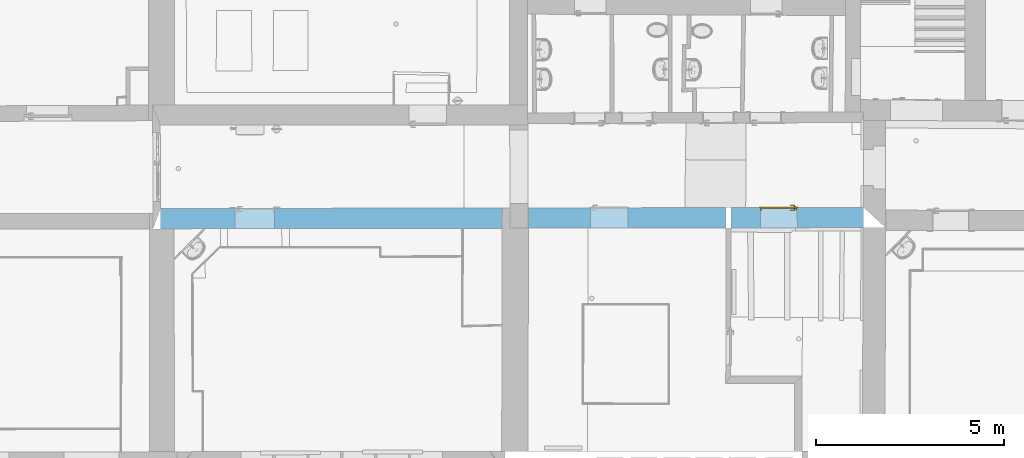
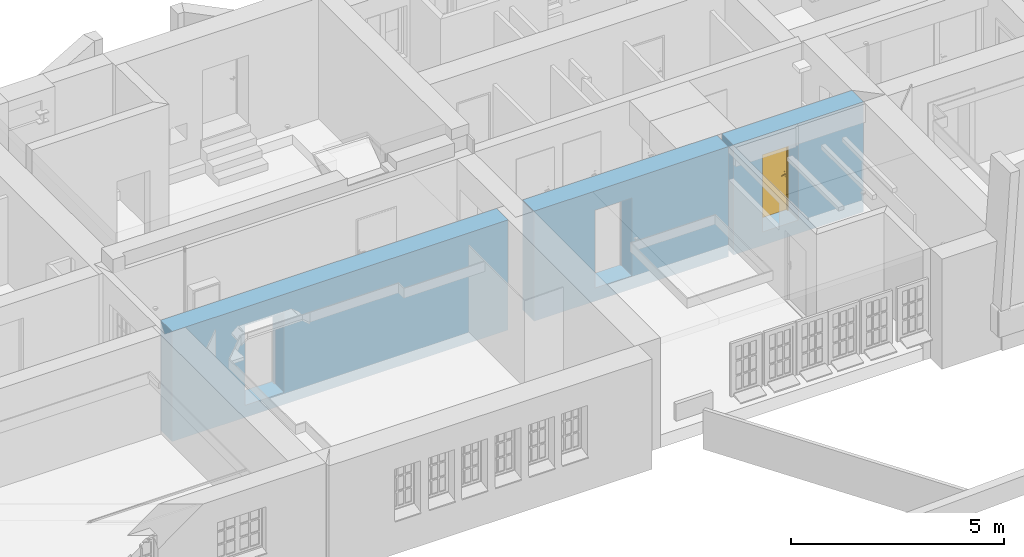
# One storey, part 97 of 196: 1 door, 3 openings, plus 1 element that does not belong to this part.
"""IFC2X3 building model written with IfcOpenShell, lengths in metres."""

from ifc_helpers import new_model, entity, si_unit, converted_unit, derived_unit, money_unit, direction, frame, origin_with_axes, origin_2d_with_axis, place, context, subcontext, project, spatial, polyline, rectangle, outline, extrude, boolean, faceted_brep, material, type_object, element, fill, save


model = new_model("IFC2X3")

# Units and contexts
model_context = context("Model", 3, precision=1e-05, world=origin_with_axes(), true_north=direction((0.0, 1.0)))
body_context = subcontext(model_context, "Body", "Model", "MODEL_VIEW")
ifc_project = project(units=[si_unit("LENGTHUNIT", "METRE"), si_unit("AREAUNIT", "SQUARE_METRE"), si_unit("VOLUMEUNIT", "CUBIC_METRE"), converted_unit("PLANEANGLEUNIT", "DEGREE", entity("IfcPlaneAngleMeasure", 0.0174532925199), si_unit("PLANEANGLEUNIT", "RADIAN"), dimensions=[0, 0, 0, 0, 0, 0, 0]), money_unit("EUR"), converted_unit("TIMEUNIT", "Year", entity("IfcTimeMeasure", 31556926.0), si_unit("TIMEUNIT", "SECOND"), dimensions=[0, 0, 1, 0, 0, 0, 0]), si_unit("MASSUNIT", "GRAM", prefix="KILO"), si_unit("THERMODYNAMICTEMPERATUREUNIT", "DEGREE_CELSIUS"), si_unit("LUMINOUSINTENSITYUNIT", "LUMEN"), si_unit("ENERGYUNIT", "JOULE", prefix="MEGA"), derived_unit("THERMALCONDUCTANCEUNIT", [(si_unit("POWERUNIT", "WATT"), 1), (si_unit("LENGTHUNIT", "METRE"), -1), (si_unit("THERMODYNAMICTEMPERATUREUNIT", "KELVIN"), -1)]), derived_unit("SPECIFICHEATCAPACITYUNIT", [(si_unit("ENERGYUNIT", "JOULE"), 1), (si_unit("MASSUNIT", "GRAM", prefix="KILO"), -1), (si_unit("THERMODYNAMICTEMPERATUREUNIT", "KELVIN"), -1)]), derived_unit("MASSDENSITYUNIT", [(si_unit("MASSUNIT", "GRAM", prefix="KILO"), 1), (si_unit("VOLUMEUNIT", "CUBIC_METRE"), -1)])], contexts=[model_context])

# Site, building, storey
site_placement = place(None, origin_with_axes())
site = spatial("IfcSite", under=ifc_project, at=site_placement, Name="Gelände", CompositionType="ELEMENT")
building_placement = place(site_placement, origin_with_axes())
building = spatial("IfcBuilding", under=site, at=building_placement, Name="Gebäude", CompositionType="ELEMENT")
storey_placement = place(building_placement, frame((0.0, 0.0, -3.0), z_axis=(0.0, 0.0, 1.0), x_axis=(1.0, 0.0, 0.0)))
storey = spatial("IfcBuildingStorey", under=building, at=storey_placement, Name="KELLERGESCHOSS", CompositionType="ELEMENT", Elevation=-3.0)

# Wall, openings, door
ifc_material = material(Name="05_ALLGEMEIN - TRAGENDE BAUTEILE")
wall_type = type_object("IfcWallType", Name="05_ALLGEMEIN - TRAGENDE BAUTEILE 540", PredefinedType="ELEMENTEDWALL")
wall_placement = place(storey_placement, frame((21.9688178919, 16.9699382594, -0.36), z_axis=(0.0, 0.0, 1.0), x_axis=(-0.999998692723, -0.00161695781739, 0.0)))
wall = element("IfcWall", 1, at=wall_placement, inside=storey, type_object=wall_type, material=ifc_material, Name="Wand-036", ObjectType="ELEMENTEDWALL", context=body_context, shape_type="CSG", body=[
    boolean("DIFFERENCE", boolean("DIFFERENCE", boolean("DIFFERENCE", boolean("DIFFERENCE", extrude(outline(polyline([(-0.585878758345, 0.0), (18.9209869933, 0.0), (18.9209869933, 0.54), (-0.585878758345, 0.54), (-0.585878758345, 0.0)])), origin_with_axes(), (0.0, 0.0, 1.0), 3.15), faceted_brep([(18.7195389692, 0.54, 0.0), (18.7195389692, 0.54, 3.15), (18.9209869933, 0.54, 3.15), (18.9209869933, 0.54, 0.0), (18.7209862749, 0.0, 3.15), (18.7209862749, 0.0, 0.0), (18.9209869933, 0.0, 3.15), (18.9209869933, 0.0, 0.0)], [[[0, 1, 2, 3]], [[4, 1, 0, 5]], [[1, 4, 6, 2]], [[6, 7, 3, 2]], [[5, 0, 3, 7]], [[4, 5, 7, 6]]])), faceted_brep([(0.0, 0.0, 0.0), (0.0, 0.0, 3.15), (-0.585878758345, 0.0, 3.15), (-0.585878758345, 0.0, 0.0), (0.000340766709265, 0.0744834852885, 3.15), (0.000340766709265, 0.0744834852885, 0.0), (0.0031865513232, 0.0744756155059, 3.15), (0.0059051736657, 0.540000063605, 3.15), (-0.585878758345, 0.54, 3.15), (-0.585878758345, 0.54, 0.0), (0.00590520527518, 0.54, 0.0), (0.0031865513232, 0.0744756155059, 0.0), (0.0059051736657, 0.540000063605, 2.62)], [[[0, 1, 2, 3]], [[4, 1, 0, 5]], [[6, 7, 8, 2, 1, 4]], [[8, 9, 3, 2]], [[5, 0, 3, 9, 10, 11]], [[6, 4, 5, 11]], [[7, 6, 11, 10, 12]], [[12, 10, 9, 8, 7]]])), faceted_brep([(3.65791219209, 0.0, 0.0), (3.65791219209, 0.0, 3.15), (3.52791129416, 0.0, 3.15), (3.52791129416, 0.0, 0.0), (3.65991925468, 0.54, 3.15), (3.65991925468, 0.54, 0.0), (3.52991835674, 0.54, 3.15), (3.52991835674, 0.54, 0.0)], [[[0, 1, 2, 3]], [[4, 1, 0, 5]], [[1, 4, 6, 2]], [[3, 2, 6, 7]], [[5, 0, 3, 7]], [[4, 5, 7, 6]]])), faceted_brep([(9.61975499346, 0.0, 0.0), (9.61975499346, 0.0, 3.15), (8.91974889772, 0.0, 3.15), (8.91974889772, 0.0, 0.0), (9.62200857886, 0.54, 3.15), (9.62200857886, 0.54, 0.0), (8.92200248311, 0.54, 3.15), (8.92200248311, 0.54, 0.0)], [[[0, 1, 2, 3]], [[4, 1, 0, 5]], [[1, 4, 6, 2]], [[3, 2, 6, 7]], [[5, 0, 3, 7]], [[4, 5, 7, 6]]])),
])
opening_1_placement = place(wall_placement, frame((16.2148036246, 0.0, 0.348037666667), z_axis=(0.0, 0.0, 1.0), x_axis=(1.0, 0.0, 0.0)))
element("IfcOpeningElement", 2, at=opening_1_placement, cuts=wall, Name="Tür-022", context=body_context, shape_type="SweptSolid", body=[
    extrude(rectangle(XDim=1.05454069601, YDim=2.277381, at=origin_2d_with_axis()), frame((0.0, -0.54, 1.1386905), z_axis=(0.0, 1.0, 0.0), x_axis=(-1.0, 0.0, 0.0)), (0.0, 0.0, 1.0), 1.62),
])
opening_2_placement = place(wall_placement, frame((6.77224830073, 0.0, 0.373), z_axis=(0.0, 0.0, 1.0), x_axis=(1.0, 0.0, 0.0)))
element("IfcOpeningElement", 3, at=opening_2_placement, cuts=wall, Name="Tür-022", context=body_context, shape_type="SweptSolid", body=[
    extrude(rectangle(XDim=1.00009255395, YDim=2.2284909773, at=origin_2d_with_axis()), frame((0.0, -0.54, 1.11424548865), z_axis=(0.0, 1.0, 0.0), x_axis=(-1.0, 0.0, 0.0)), (0.0, 0.0, 1.0), 1.62),
])
opening_3_placement = place(wall_placement, frame((2.25172785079, 0.0, 0.382635), z_axis=(0.0, 0.0, 1.0), x_axis=(1.0, 0.0, 0.0)))
opening_3 = element("IfcOpeningElement", 4, at=opening_3_placement, cuts=wall, Name="Tür-022", context=body_context, shape_type="SweptSolid", body=[
    extrude(rectangle(XDim=0.976937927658, YDim=2.214082, at=origin_2d_with_axis()), frame((0.0, -0.54, 1.107041), z_axis=(0.0, -1.0, 0.0), x_axis=(1.0, 0.0, 0.0)), (0.0, 0.0, -1.0), 1.62),
])
door_style = type_object("IfcDoorStyle", Name="Blockrahmentür 1-Fl 25", ConstructionType="NOTDEFINED", OperationType="SINGLE_SWING_LEFT", ParameterTakesPrecedence=False, Sizeable=False)
door_placement = place(opening_3_placement, frame((0.458468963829, 0.0, 0.0), z_axis=(0.0, 0.0, 1.0), x_axis=(-1.0, 0.0, 0.0)))
door = element("IfcDoor", 5, at=door_placement, inside=storey, type_object=door_style, Name="Tür-022", ObjectType="NOTDEFINED", OverallHeight=2.21408, OverallWidth=0.976938, context=body_context, shape_type="Brep", body=[
    faceted_brep([(-0.03, -0.073, 0.0), (-0.03, -0.073, 2.214082), (-0.03, -0.028, 2.214082), (-0.03, -0.028, 0.0), (0.0, -0.073, 0.0), (0.0, -0.073, 2.184082), (0.343368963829, -0.073, 2.184082), (0.458368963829, -0.073, 2.184082), (0.916937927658, -0.073, 2.184082), (0.916937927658, -0.073, 0.0), (0.946937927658, -0.073, 0.0), (0.946937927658, -0.073, 2.214082), (0.946937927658, -0.028, 2.214082), (0.946937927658, -0.028, 0.0), (0.916937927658, -0.028, 0.0), (0.916937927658, -0.028, 2.184082), (0.458368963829, -0.028, 2.184082), (0.343368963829, -0.028, 2.184082), (0.0, -0.028, 2.184082), (0.0, -0.028, 0.0)], [[[0, 1, 2, 3]], [[0, 4, 5, 6, 7, 8, 9, 10, 11, 1]], [[1, 11, 12, 2]], [[3, 2, 12, 13, 14, 15, 16, 17, 18, 19]], [[4, 0, 3, 19]], [[5, 4, 19, 18]], [[6, 5, 18, 17]], [[7, 6, 17, 16]], [[8, 7, 16, 15]], [[9, 8, 15, 14]], [[10, 9, 14, 13]], [[11, 10, 13, 12]]]),
    faceted_brep([(-0.03, -0.028, 0.0), (-0.03, -0.028, 2.214082), (-0.03, 0.012, 2.214082), (-0.03, 0.012, 0.0), (-0.015, -0.028, 0.0), (-0.015, -0.028, 2.199082), (0.358368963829, -0.028, 2.199082), (0.443368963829, -0.028, 2.199082), (0.931937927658, -0.028, 2.199082), (0.931937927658, -0.028, 0.0), (0.946937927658, -0.028, 0.0), (0.946937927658, -0.028, 2.214082), (0.946937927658, 0.012, 2.214082), (0.946937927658, 0.012, 0.0), (0.931937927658, 0.012, 0.0), (0.931937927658, 0.012, 2.199082), (0.443368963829, 0.012, 2.199082), (0.358368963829, 0.012, 2.199082), (-0.015, 0.012, 2.199082), (-0.015, 0.012, 0.0)], [[[0, 1, 2, 3]], [[0, 4, 5, 6, 7, 8, 9, 10, 11, 1]], [[1, 11, 12, 2]], [[3, 2, 12, 13, 14, 15, 16, 17, 18, 19]], [[4, 0, 3, 19]], [[5, 4, 19, 18]], [[6, 5, 18, 17]], [[7, 6, 17, 16]], [[8, 7, 16, 15]], [[9, 8, 15, 14]], [[10, 9, 14, 13]], [[11, 10, 13, 12]]]),
    faceted_brep([(-0.07, 0.0, 0.0), (-0.07, 0.0, 2.254082), (-0.07, 0.012, 2.254082), (-0.07, 0.012, 0.0), (-0.03, 0.0, 0.0), (-0.03, 0.0, 2.214082), (0.946937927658, 0.0, 2.214082), (0.946937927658, 0.0, 0.0), (0.986937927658, 0.0, 0.0), (0.986937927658, 0.0, 2.254082), (0.986937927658, 0.012, 2.254082), (0.986937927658, 0.012, 0.0), (0.946937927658, 0.012, 0.0), (0.946937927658, 0.012, 2.214082), (-0.03, 0.012, 2.214082), (-0.03, 0.012, 0.0)], [[[0, 1, 2, 3]], [[0, 4, 5, 6, 7, 8, 9, 1]], [[1, 9, 10, 2]], [[3, 2, 10, 11, 12, 13, 14, 15]], [[4, 0, 3, 15]], [[5, 4, 15, 14]], [[6, 5, 14, 13]], [[7, 6, 13, 12]], [[8, 7, 12, 11]], [[9, 8, 11, 10]]]),
    faceted_brep([(-0.015, 0.017, 0.0), (-0.015, 0.017, 2.199082), (0.931937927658, 0.017, 2.199082), (0.931937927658, 0.017, 0.0), (-0.015, -0.028, 0.0), (-0.015, -0.028, 2.199082), (0.931937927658, -0.028, 2.199082), (0.931937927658, -0.028, 0.0)], [[[0, 1, 2, 3]], [[0, 4, 5, 1]], [[1, 5, 6, 2]], [[2, 6, 7, 3]], [[3, 7, 4, 0]], [[7, 6, 5, 4]]]),
    faceted_brep([(0.876640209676, -0.068, 1.05647213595), (0.876640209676, -0.048, 1.05647213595), (0.871937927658, -0.048, 1.058), (0.871937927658, -0.068, 1.058), (0.879546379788, -0.068, 1.05247213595), (0.879546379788, -0.048, 1.05247213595), (0.877815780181, -0.046, 1.05809016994), (0.871937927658, -0.046, 1.06), (0.867235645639, -0.048, 1.05647213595), (0.867235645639, -0.068, 1.05647213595), (0.864329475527, -0.068, 1.05247213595), (0.864329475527, -0.068, 1.04752786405), (0.867235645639, -0.068, 1.04352786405), (0.871937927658, -0.068, 1.042), (0.876640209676, -0.068, 1.04352786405), (0.879546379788, -0.068, 1.04752786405), (0.879546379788, -0.048, 1.04752786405), (0.881448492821, -0.046, 1.05309016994), (0.877815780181, -0.038, 1.05809016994), (0.871937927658, -0.038, 1.06), (0.866060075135, -0.046, 1.05809016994), (0.864329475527, -0.048, 1.05247213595), (0.864329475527, -0.048, 1.04752786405), (0.867235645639, -0.048, 1.04352786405), (0.871937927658, -0.048, 1.042), (0.876640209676, -0.048, 1.04352786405), (0.881448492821, -0.046, 1.04690983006), (0.881448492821, -0.038, 1.05309016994), (0.881448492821, -0.038, 1.04690983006), (0.877815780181, -0.038, 1.04190983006), (0.871937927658, -0.038, 1.04), (0.866060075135, -0.038, 1.04190983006), (0.862427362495, -0.038, 1.04690983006), (0.862427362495, -0.038, 1.05309016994), (0.866060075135, -0.038, 1.05809016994), (0.862427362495, -0.046, 1.05309016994), (0.862427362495, -0.046, 1.04690983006), (0.866060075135, -0.046, 1.04190983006), (0.871937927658, -0.046, 1.04), (0.877815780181, -0.046, 1.04190983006)], [[[0, 1, 2, 3]], [[4, 5, 1, 0]], [[1, 6, 7, 2]], [[3, 2, 8, 9]], [[3, 9, 10, 11, 12, 13, 14, 15, 4, 0]], [[15, 16, 5, 4]], [[5, 17, 6, 1]], [[6, 18, 19, 7]], [[2, 7, 20, 8]], [[9, 8, 21, 10]], [[10, 21, 22, 11]], [[11, 22, 23, 12]], [[12, 23, 24, 13]], [[13, 24, 25, 14]], [[14, 25, 16, 15]], [[16, 26, 17, 5]], [[17, 27, 18, 6]], [[19, 18, 27, 28, 29, 30, 31, 32, 33, 34]], [[7, 19, 34, 20]], [[8, 20, 35, 21]], [[21, 35, 36, 22]], [[22, 36, 37, 23]], [[23, 37, 38, 24]], [[24, 38, 39, 25]], [[25, 39, 26, 16]], [[26, 28, 27, 17]], [[39, 29, 28, 26]], [[38, 30, 29, 39]], [[37, 31, 30, 38]], [[36, 32, 31, 37]], [[35, 33, 32, 36]], [[20, 34, 33, 35]]]),
    faceted_brep([(0.859749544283, -0.038, 1.11759695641), (0.855137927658, -0.038, 1.11), (0.849437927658, -0.038, 1.11), (0.849437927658, -0.038, 0.89), (0.855137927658, -0.038, 0.89), (0.859749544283, -0.038, 0.882403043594), (0.867494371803, -0.038, 0.878044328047), (0.876381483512, -0.038, 0.878044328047), (0.884126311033, -0.038, 0.882403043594), (0.888737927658, -0.038, 0.89), (0.894437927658, -0.038, 0.89), (0.894437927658, -0.038, 1.11), (0.888737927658, -0.038, 1.11), (0.884126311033, -0.038, 1.11759695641), (0.876381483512, -0.038, 1.12195567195), (0.867494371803, -0.038, 1.12195567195), (0.871937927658, -0.038, 0.967425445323), (0.877313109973, -0.038, 0.965143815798), (0.879405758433, -0.038, 0.959692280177), (0.876937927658, -0.038, 0.9544), (0.876937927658, -0.038, 0.9375), (0.875473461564, -0.038, 0.933964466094), (0.871937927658, -0.038, 0.9325), (0.868402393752, -0.038, 0.933964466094), (0.866937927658, -0.038, 0.9375), (0.866937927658, -0.038, 0.9544), (0.864470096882, -0.038, 0.959692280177), (0.866562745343, -0.038, 0.965143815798), (0.859749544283, -0.028, 1.11759695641), (0.855137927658, -0.028, 1.11), (0.849437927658, -0.028, 1.11), (0.849437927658, -0.028, 0.89), (0.855137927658, -0.028, 0.89), (0.859749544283, -0.028, 0.882403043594), (0.867494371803, -0.028, 0.878044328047), (0.876381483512, -0.028, 0.878044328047), (0.884126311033, -0.028, 0.882403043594), (0.888737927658, -0.028, 0.89), (0.894437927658, -0.028, 0.89), (0.894437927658, -0.028, 1.11), (0.888737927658, -0.028, 1.11), (0.884126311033, -0.028, 1.11759695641), (0.876381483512, -0.028, 1.12195567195), (0.867494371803, -0.028, 1.12195567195), (0.871937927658, -0.028, 0.967425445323), (0.877313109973, -0.028, 0.965143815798), (0.879405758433, -0.028, 0.959692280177), (0.876937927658, -0.028, 0.9544), (0.876937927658, -0.028, 0.9375), (0.875473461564, -0.028, 0.933964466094), (0.871937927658, -0.028, 0.9325), (0.868402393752, -0.028, 0.933964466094), (0.866937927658, -0.028, 0.9375), (0.866937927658, -0.028, 0.9544), (0.864470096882, -0.028, 0.959692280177), (0.866562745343, -0.028, 0.965143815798)], [[[0, 1, 2, 3, 4, 5, 6, 7, 8, 9, 10, 11, 12, 13, 14, 15], [16, 17, 18, 19, 20, 21, 22, 23, 24, 25, 26, 27]], [[0, 28, 29, 1]], [[1, 29, 30, 2]], [[2, 30, 31, 3]], [[3, 31, 32, 4]], [[4, 32, 33, 5]], [[5, 33, 34, 6]], [[6, 34, 35, 7]], [[7, 35, 36, 8]], [[8, 36, 37, 9]], [[9, 37, 38, 10]], [[10, 38, 39, 11]], [[11, 39, 40, 12]], [[12, 40, 41, 13]], [[13, 41, 42, 14]], [[14, 42, 43, 15]], [[15, 43, 28, 0]], [[16, 44, 45, 17]], [[17, 45, 46, 18]], [[18, 46, 47, 19]], [[47, 48, 20, 19]], [[21, 20, 48, 49]], [[22, 21, 49, 50]], [[23, 22, 50, 51]], [[24, 23, 51, 52]], [[25, 24, 52, 53]], [[25, 53, 54, 26]], [[26, 54, 55, 27]], [[27, 55, 44, 16]], [[32, 31, 30, 29, 28, 43, 42, 41, 40, 39, 38, 37, 36, 35, 34, 33], [46, 45, 44, 55, 54, 53, 52, 51, 50, 49, 48, 47]]]),
    faceted_brep([(0.757684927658, -0.068, 1.057158), (0.75768343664, -0.068, 1.05719388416), (0.75768343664, -0.083, 1.05719388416), (0.757684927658, -0.083, 1.057158), (0.784712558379, -0.068, 1.06432652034), (0.812540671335, -0.068, 1.06706086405), (0.840446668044, -0.068, 1.06529002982), (0.867705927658, -0.068, 1.05906), (0.874108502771, -0.068, 1.05976125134), (0.879610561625, -0.068, 1.05641280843), (0.881929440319, -0.068, 1.05040385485), (0.880103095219, -0.068, 1.04422735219), (0.874889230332, -0.068, 1.04044577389), (0.868450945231, -0.068, 1.04062800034), (0.863459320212, -0.068, 1.04469843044), (0.863479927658, -0.068, 1.044666), (0.838191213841, -0.068, 1.05019878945), (0.812348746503, -0.068, 1.05171460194), (0.78658661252, -0.068, 1.04917624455), (0.761536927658, -0.068, 1.042646), (0.755993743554, -0.068, 1.04356849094), (0.752632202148, -0.068, 1.04807159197), (0.753323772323, -0.068, 1.05364829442), (0.753323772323, -0.083, 1.05364829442), (0.752632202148, -0.083, 1.04807159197), (0.755993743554, -0.083, 1.04356849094), (0.761536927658, -0.083, 1.042646), (0.78658661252, -0.083, 1.04917624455), (0.812348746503, -0.083, 1.05171460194), (0.838191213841, -0.083, 1.05019878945), (0.863479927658, -0.083, 1.044666), (0.863459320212, -0.083, 1.04469843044), (0.868450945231, -0.083, 1.04062800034), (0.874889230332, -0.083, 1.04044577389), (0.880103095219, -0.083, 1.04422735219), (0.881929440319, -0.083, 1.05040385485), (0.879610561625, -0.083, 1.05641280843), (0.874108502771, -0.083, 1.05976125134), (0.867705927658, -0.083, 1.05906), (0.840446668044, -0.083, 1.06529002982), (0.812540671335, -0.083, 1.06706086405), (0.784712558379, -0.083, 1.06432652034)], [[[0, 1, 2, 3]], [[0, 4, 5, 6, 7, 8, 9, 10, 11, 12, 13, 14, 15, 16, 17, 18, 19, 20, 21, 22, 1]], [[1, 22, 23, 2]], [[3, 2, 23, 24, 25, 26, 27, 28, 29, 30, 31, 32, 33, 34, 35, 36, 37, 38, 39, 40, 41]], [[4, 0, 3, 41]], [[5, 4, 41, 40]], [[6, 5, 40, 39]], [[7, 6, 39, 38]], [[8, 7, 38, 37]], [[9, 8, 37, 36]], [[10, 9, 36, 35]], [[11, 10, 35, 34]], [[12, 11, 34, 33]], [[13, 12, 33, 32]], [[14, 13, 32, 31]], [[15, 14, 31, 30]], [[16, 15, 30, 29]], [[17, 16, 29, 28]], [[18, 17, 28, 27]], [[19, 18, 27, 26]], [[20, 19, 26, 25]], [[21, 20, 25, 24]], [[22, 21, 24, 23]]]),
    faceted_brep([(0.876640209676, 0.057, 1.05647213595), (0.871937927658, 0.057, 1.058), (0.871937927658, 0.037, 1.058), (0.876640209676, 0.037, 1.05647213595), (0.879546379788, 0.057, 1.05247213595), (0.879546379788, 0.057, 1.04752786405), (0.876640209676, 0.057, 1.04352786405), (0.871937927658, 0.057, 1.042), (0.867235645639, 0.057, 1.04352786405), (0.864329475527, 0.057, 1.04752786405), (0.864329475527, 0.057, 1.05247213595), (0.867235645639, 0.057, 1.05647213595), (0.867235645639, 0.037, 1.05647213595), (0.871937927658, 0.035, 1.06), (0.877815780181, 0.035, 1.05809016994), (0.879546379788, 0.037, 1.05247213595), (0.879546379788, 0.037, 1.04752786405), (0.876640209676, 0.037, 1.04352786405), (0.871937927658, 0.037, 1.042), (0.867235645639, 0.037, 1.04352786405), (0.864329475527, 0.037, 1.04752786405), (0.864329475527, 0.037, 1.05247213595), (0.866060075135, 0.035, 1.05809016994), (0.871937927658, 0.027, 1.06), (0.877815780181, 0.027, 1.05809016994), (0.881448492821, 0.035, 1.05309016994), (0.881448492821, 0.035, 1.04690983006), (0.877815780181, 0.035, 1.04190983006), (0.871937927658, 0.035, 1.04), (0.866060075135, 0.035, 1.04190983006), (0.862427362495, 0.035, 1.04690983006), (0.862427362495, 0.035, 1.05309016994), (0.866060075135, 0.027, 1.05809016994), (0.862427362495, 0.027, 1.05309016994), (0.862427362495, 0.027, 1.04690983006), (0.866060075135, 0.027, 1.04190983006), (0.871937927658, 0.027, 1.04), (0.877815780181, 0.027, 1.04190983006), (0.881448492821, 0.027, 1.04690983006), (0.881448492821, 0.027, 1.05309016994)], [[[0, 1, 2, 3]], [[1, 0, 4, 5, 6, 7, 8, 9, 10, 11]], [[1, 11, 12, 2]], [[3, 2, 13, 14]], [[4, 0, 3, 15]], [[5, 4, 15, 16]], [[6, 5, 16, 17]], [[7, 6, 17, 18]], [[8, 7, 18, 19]], [[9, 8, 19, 20]], [[10, 9, 20, 21]], [[11, 10, 21, 12]], [[2, 12, 22, 13]], [[14, 13, 23, 24]], [[15, 3, 14, 25]], [[16, 15, 25, 26]], [[17, 16, 26, 27]], [[18, 17, 27, 28]], [[19, 18, 28, 29]], [[20, 19, 29, 30]], [[21, 20, 30, 31]], [[12, 21, 31, 22]], [[13, 22, 32, 23]], [[23, 32, 33, 34, 35, 36, 37, 38, 39, 24]], [[25, 14, 24, 39]], [[26, 25, 39, 38]], [[27, 26, 38, 37]], [[28, 27, 37, 36]], [[29, 28, 36, 35]], [[30, 29, 35, 34]], [[31, 30, 34, 33]], [[22, 31, 33, 32]]]),
    faceted_brep([(0.859749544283, 0.017, 1.11759695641), (0.855137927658, 0.017, 1.11), (0.849437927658, 0.017, 1.11), (0.849437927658, 0.017, 0.89), (0.855137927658, 0.017, 0.89), (0.859749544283, 0.017, 0.882403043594), (0.867494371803, 0.017, 0.878044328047), (0.876381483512, 0.017, 0.878044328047), (0.884126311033, 0.017, 0.882403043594), (0.888737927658, 0.017, 0.89), (0.894437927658, 0.017, 0.89), (0.894437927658, 0.017, 1.11), (0.888737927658, 0.017, 1.11), (0.884126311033, 0.017, 1.11759695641), (0.876381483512, 0.017, 1.12195567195), (0.867494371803, 0.017, 1.12195567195), (0.871937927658, 0.017, 0.967425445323), (0.877313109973, 0.017, 0.965143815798), (0.879405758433, 0.017, 0.959692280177), (0.876937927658, 0.017, 0.9544), (0.876937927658, 0.017, 0.9375), (0.875473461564, 0.017, 0.933964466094), (0.871937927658, 0.017, 0.9325), (0.868402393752, 0.017, 0.933964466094), (0.866937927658, 0.017, 0.9375), (0.866937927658, 0.017, 0.9544), (0.864470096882, 0.017, 0.959692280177), (0.866562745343, 0.017, 0.965143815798), (0.859749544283, 0.027, 1.11759695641), (0.855137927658, 0.027, 1.11), (0.849437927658, 0.027, 1.11), (0.849437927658, 0.027, 0.89), (0.855137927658, 0.027, 0.89), (0.859749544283, 0.027, 0.882403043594), (0.867494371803, 0.027, 0.878044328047), (0.876381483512, 0.027, 0.878044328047), (0.884126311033, 0.027, 0.882403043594), (0.888737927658, 0.027, 0.89), (0.894437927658, 0.027, 0.89), (0.894437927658, 0.027, 1.11), (0.888737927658, 0.027, 1.11), (0.884126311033, 0.027, 1.11759695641), (0.876381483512, 0.027, 1.12195567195), (0.867494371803, 0.027, 1.12195567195), (0.871937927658, 0.027, 0.967425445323), (0.877313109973, 0.027, 0.965143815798), (0.879405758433, 0.027, 0.959692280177), (0.876937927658, 0.027, 0.9544), (0.876937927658, 0.027, 0.9375), (0.875473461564, 0.027, 0.933964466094), (0.871937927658, 0.027, 0.9325), (0.868402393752, 0.027, 0.933964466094), (0.866937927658, 0.027, 0.9375), (0.866937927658, 0.027, 0.9544), (0.864470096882, 0.027, 0.959692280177), (0.866562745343, 0.027, 0.965143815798)], [[[0, 1, 2, 3, 4, 5, 6, 7, 8, 9, 10, 11, 12, 13, 14, 15], [16, 17, 18, 19, 20, 21, 22, 23, 24, 25, 26, 27]], [[28, 29, 1, 0]], [[29, 30, 2, 1]], [[30, 31, 3, 2]], [[31, 32, 4, 3]], [[32, 33, 5, 4]], [[33, 34, 6, 5]], [[34, 35, 7, 6]], [[35, 36, 8, 7]], [[36, 37, 9, 8]], [[37, 38, 10, 9]], [[38, 39, 11, 10]], [[39, 40, 12, 11]], [[40, 41, 13, 12]], [[41, 42, 14, 13]], [[42, 43, 15, 14]], [[43, 28, 0, 15]], [[16, 44, 45, 17]], [[17, 45, 46, 18]], [[18, 46, 47, 19]], [[47, 48, 20, 19]], [[21, 20, 48, 49]], [[22, 21, 49, 50]], [[23, 22, 50, 51]], [[24, 23, 51, 52]], [[25, 24, 52, 53]], [[25, 53, 54, 26]], [[26, 54, 55, 27]], [[27, 55, 44, 16]], [[32, 31, 30, 29, 28, 43, 42, 41, 40, 39, 38, 37, 36, 35, 34, 33], [46, 45, 44, 55, 54, 53, 52, 51, 50, 49, 48, 47]]]),
    faceted_brep([(0.757684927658, 0.057, 1.057158), (0.757684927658, 0.072, 1.057158), (0.75768343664, 0.072, 1.05719388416), (0.75768343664, 0.057, 1.05719388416), (0.784712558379, 0.057, 1.06432652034), (0.784712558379, 0.072, 1.06432652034), (0.812540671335, 0.072, 1.06706086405), (0.840446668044, 0.072, 1.06529002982), (0.867705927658, 0.072, 1.05906), (0.874108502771, 0.072, 1.05976125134), (0.879610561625, 0.072, 1.05641280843), (0.881929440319, 0.072, 1.05040385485), (0.880103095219, 0.072, 1.04422735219), (0.874889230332, 0.072, 1.04044577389), (0.868450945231, 0.072, 1.04062800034), (0.863459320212, 0.072, 1.04469843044), (0.863479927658, 0.072, 1.044666), (0.838191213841, 0.072, 1.05019878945), (0.812348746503, 0.072, 1.05171460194), (0.78658661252, 0.072, 1.04917624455), (0.761536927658, 0.072, 1.042646), (0.755993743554, 0.072, 1.04356849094), (0.752632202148, 0.072, 1.04807159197), (0.753323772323, 0.072, 1.05364829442), (0.753323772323, 0.057, 1.05364829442), (0.752632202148, 0.057, 1.04807159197), (0.755993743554, 0.057, 1.04356849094), (0.761536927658, 0.057, 1.042646), (0.78658661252, 0.057, 1.04917624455), (0.812348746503, 0.057, 1.05171460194), (0.838191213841, 0.057, 1.05019878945), (0.863479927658, 0.057, 1.044666), (0.863459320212, 0.057, 1.04469843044), (0.868450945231, 0.057, 1.04062800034), (0.874889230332, 0.057, 1.04044577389), (0.880103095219, 0.057, 1.04422735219), (0.881929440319, 0.057, 1.05040385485), (0.879610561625, 0.057, 1.05641280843), (0.874108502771, 0.057, 1.05976125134), (0.867705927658, 0.057, 1.05906), (0.840446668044, 0.057, 1.06529002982), (0.812540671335, 0.057, 1.06706086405)], [[[0, 1, 2, 3]], [[4, 5, 1, 0]], [[1, 5, 6, 7, 8, 9, 10, 11, 12, 13, 14, 15, 16, 17, 18, 19, 20, 21, 22, 23, 2]], [[3, 2, 23, 24]], [[0, 3, 24, 25, 26, 27, 28, 29, 30, 31, 32, 33, 34, 35, 36, 37, 38, 39, 40, 41, 4]], [[41, 6, 5, 4]], [[40, 7, 6, 41]], [[39, 8, 7, 40]], [[38, 9, 8, 39]], [[37, 10, 9, 38]], [[36, 11, 10, 37]], [[35, 12, 11, 36]], [[34, 13, 12, 35]], [[33, 14, 13, 34]], [[32, 15, 14, 33]], [[31, 16, 15, 32]], [[30, 17, 16, 31]], [[29, 18, 17, 30]], [[28, 19, 18, 29]], [[27, 20, 19, 28]], [[26, 21, 20, 27]], [[25, 22, 21, 26]], [[24, 23, 22, 25]]]),
])
fill(opening_3, door)

save(model, "model.ifc")
